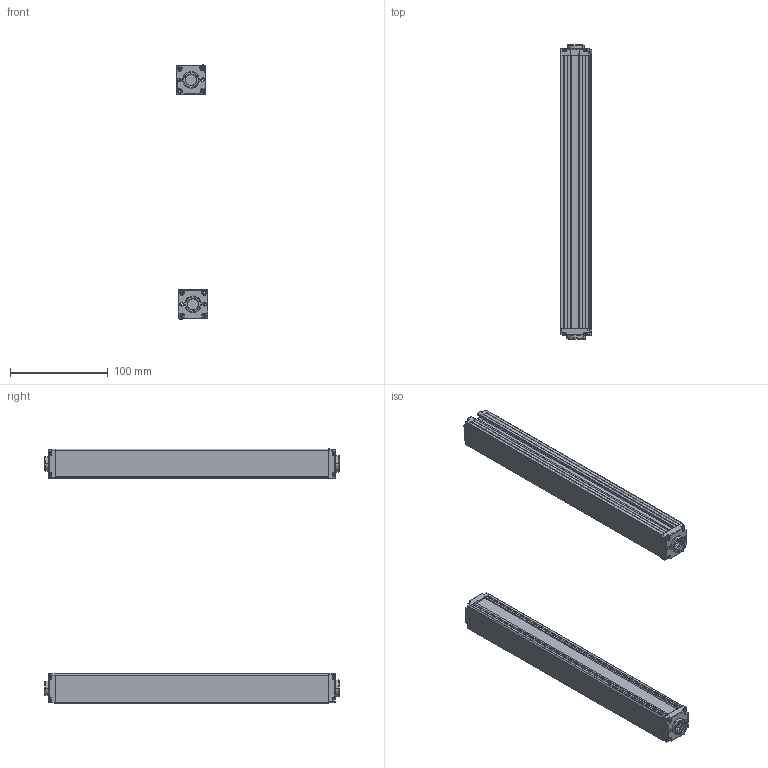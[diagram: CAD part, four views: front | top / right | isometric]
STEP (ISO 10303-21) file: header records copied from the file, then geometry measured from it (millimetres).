
FILE_DESCRIPTION (( 'STEP AP203' ), '1' );
FILE_NAME ('ZDA2610-280.STEP', '2022-08-30T03:40:07', ( 'Windows 蚚誧' ), ( 'Organization' ), 'SwSTEP 2.0', 'SolidWorks 2020', '' );
FILE_SCHEMA (( 'CONFIG_CONTROL_DESIGN' ));
Length unit declared in the file: millimetre
Products named in the file (5): 錨璃10; ZDA2610-280; 錨璃1; 錨璃8; 錨璃8 - 萵掛 (2)
Assembly tree (8 placements, depth 2):
  ZDA2610-280
    錨璃1  x2
    錨璃8  x2
    錨璃8 - 萵掛 (2)  x2
    錨璃10  x2
Bounding box: 32.36 x 301.4 x 260.35 mm (x, y, z)
Volume: 186195.2 mm3; surface area: 199417 mm2
Topology: 8 solids, 8 shells, 1032 faces, 2690 edges, 1668 vertices
Faces by surface type: plane 464, cylinder 310, cone 120, bspline 58, torus 48, sphere 32
Entity records: 17901 total; most frequent: CARTESIAN_POINT 4731, ORIENTED_EDGE 2666, DIRECTION 2616, EDGE_CURVE 1333, AXIS2_PLACEMENT_3D 894, VERTEX_POINT 834, VECTOR 828, LINE 828
